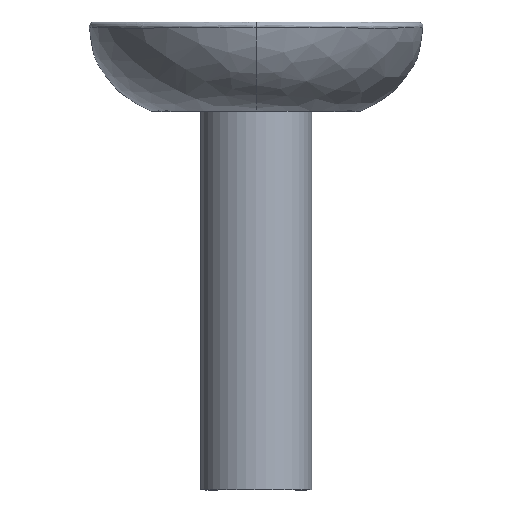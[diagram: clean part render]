
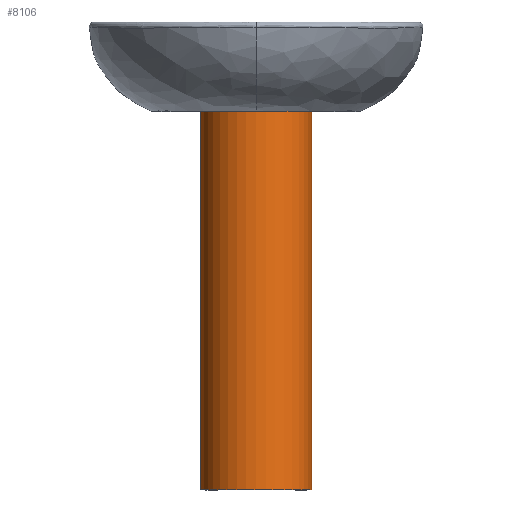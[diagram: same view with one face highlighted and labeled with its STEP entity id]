
A CAD part, top view. The second image highlights one B-rep face of the part: STEP entity #8106.
In plain terms, the highlighted cylindrical face has radius 100 mm (diameter 200 mm), a partial arc.
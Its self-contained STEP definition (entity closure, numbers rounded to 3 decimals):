
#54 = AXIS2_PLACEMENT_3D ( 'NONE', #781, #6043, #9609 ) ;
#147 = EDGE_CURVE ( 'NONE', #1695, #3887, #7720, .T. ) ;
#153 = CARTESIAN_POINT ( 'NONE',  ( 100., 4., 690. ) ) ;
#687 = CIRCLE ( 'NONE', #54, 100. ) ;
#781 = CARTESIAN_POINT ( 'NONE',  ( 0., 4., 690. ) ) ;
#1695 = VERTEX_POINT ( 'NONE', #2735 ) ;
#1882 = VERTEX_POINT ( 'NONE', #6700 ) ;
#1916 = EDGE_CURVE ( 'NONE', #2712, #1882, #687, .T. ) ;
#1935 = DIRECTION ( 'NONE',  ( 0., 0., 1. ) ) ;
#2712 = VERTEX_POINT ( 'NONE', #153 ) ;
#2735 = CARTESIAN_POINT ( 'NONE',  ( -100., 4., 0. ) ) ;
#3215 = LINE ( 'NONE', #7120, #3582 ) ;
#3582 = VECTOR ( 'NONE', #8701, 1000. ) ;
#3887 = VERTEX_POINT ( 'NONE', #6209 ) ;
#4352 = CARTESIAN_POINT ( 'NONE',  ( -100., 4., 1820.029 ) ) ;
#4410 = CYLINDRICAL_SURFACE ( 'NONE', #8322, 100. ) ;
#4411 = AXIS2_PLACEMENT_3D ( 'NONE', #6472, #1935, #7941 ) ;
#5002 = ORIENTED_EDGE ( 'NONE', *, *, #9067, .T. ) ;
#5743 = FACE_OUTER_BOUND ( 'NONE', #7355, .T. ) ;
#5900 = DIRECTION ( 'NONE',  ( -1., 0., 0. ) ) ;
#6043 = DIRECTION ( 'NONE',  ( 0., 0., -1. ) ) ;
#6209 = CARTESIAN_POINT ( 'NONE',  ( 100., 4., 0. ) ) ;
#6472 = CARTESIAN_POINT ( 'NONE',  ( 0., 4., 0. ) ) ;
#6484 = LINE ( 'NONE', #4352, #9570 ) ;
#6700 = CARTESIAN_POINT ( 'NONE',  ( -100., 4., 690. ) ) ;
#7120 = CARTESIAN_POINT ( 'NONE',  ( 100., 4., 1820.029 ) ) ;
#7207 = ORIENTED_EDGE ( 'NONE', *, *, #1916, .T. ) ;
#7355 = EDGE_LOOP ( 'NONE', ( #7207, #5002, #7702, #7868 ) ) ;
#7702 = ORIENTED_EDGE ( 'NONE', *, *, #147, .T. ) ;
#7720 = CIRCLE ( 'NONE', #4411, 100. ) ;
#7868 = ORIENTED_EDGE ( 'NONE', *, *, #8674, .T. ) ;
#7941 = DIRECTION ( 'NONE',  ( -1., 0., 0. ) ) ;
#8070 = CARTESIAN_POINT ( 'NONE',  ( 0., 4., 1820.029 ) ) ;
#8106 = ADVANCED_FACE ( 'NONE', ( #5743 ), #4410, .T. ) ;
#8322 = AXIS2_PLACEMENT_3D ( 'NONE', #8070, #9664, #5900 ) ;
#8674 = EDGE_CURVE ( 'NONE', #3887, #2712, #3215, .T. ) ;
#8701 = DIRECTION ( 'NONE',  ( 0., 0., 1. ) ) ;
#8911 = DIRECTION ( 'NONE',  ( 0., 0., -1. ) ) ;
#9067 = EDGE_CURVE ( 'NONE', #1882, #1695, #6484, .T. ) ;
#9570 = VECTOR ( 'NONE', #8911, 1000. ) ;
#9609 = DIRECTION ( 'NONE',  ( -1., 0., 0. ) ) ;
#9664 = DIRECTION ( 'NONE',  ( 0., 0., -1. ) ) ;
